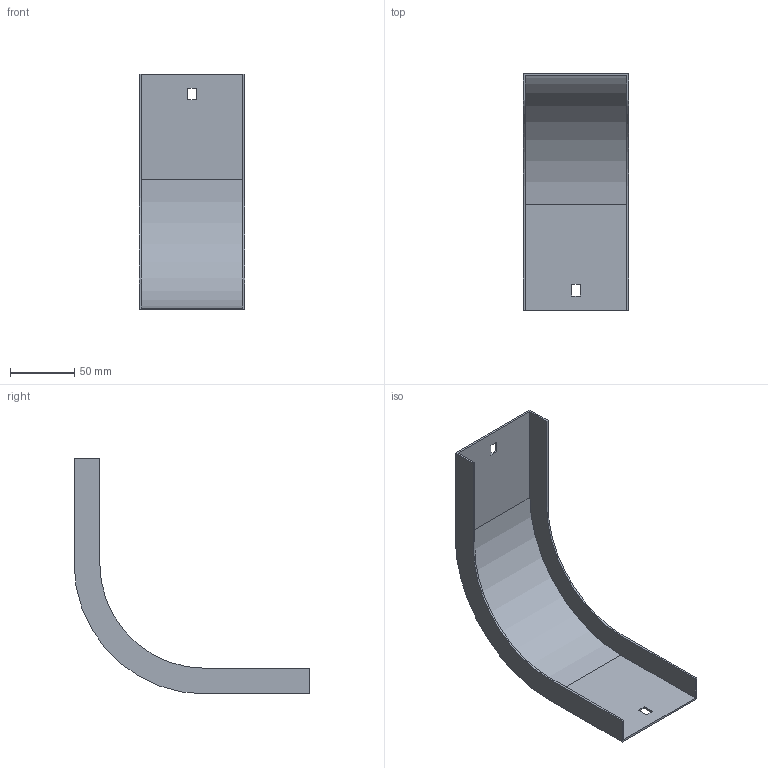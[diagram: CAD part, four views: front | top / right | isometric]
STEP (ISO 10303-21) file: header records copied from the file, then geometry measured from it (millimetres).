
FILE_DESCRIPTION (( 'STEP AP214' ), '1' );
FILE_NAME ('33G1B075.step', '2025-02-21T12:44:10', ( '' ), ( '' ), 'SwSTEP 2.0', 'SolidWorks 2023', '' );
FILE_SCHEMA (( 'AUTOMOTIVE_DESIGN' ));
Length unit declared in the file: millimetre
Products named in the file (1): 33G1B075
Bounding box: 82 x 183.5 x 183.5 mm (x, y, z)
Volume: 56475.7 mm3; surface area: 76630.5 mm2
Topology: 1 solids, 1 shells, 26 faces, 72 edges, 48 vertices
Faces by surface type: plane 22, cylinder 4
Entity records: 855 total; most frequent: CARTESIAN_POINT 147, ORIENTED_EDGE 144, DIRECTION 134, EDGE_CURVE 72, VECTOR 64, LINE 64, VERTEX_POINT 48, AXIS2_PLACEMENT_3D 35
